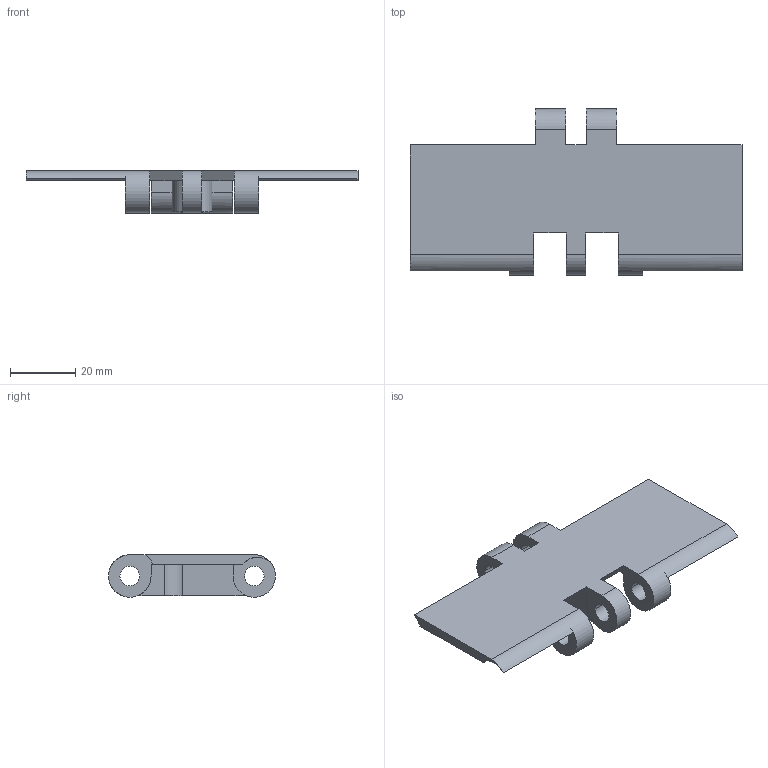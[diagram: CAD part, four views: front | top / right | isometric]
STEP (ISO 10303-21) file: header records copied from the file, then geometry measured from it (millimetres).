
FILE_DESCRIPTION(('CATIA V5 STEP Exchange'),'2;1');
FILE_NAME('C:\Users\ALI OZGUN\Desktop\alhan\TESLIMEDILEN\820K00101.stp','2017-08-04T07:42:35+00:00',('none'),('none'),'CATIA Version 5 Release 21 GA (IN-10)','CATIA V5 STEP AP203','none');
FILE_SCHEMA(('CONFIG_CONTROL_DESIGN'));
Length unit declared in the file: millimetre
Products named in the file (1): 820K00101
Bounding box: 101.6 x 51.09 x 13 mm (x, y, z)
Volume: 14641.7 mm3; surface area: 11382.6 mm2
Topology: 1 solids, 1 shells, 60 faces, 178 edges, 120 vertices
Faces by surface type: plane 35, cylinder 25
Entity records: 1961 total; most frequent: CARTESIAN_POINT 386, ORIENTED_EDGE 356, DIRECTION 247, EDGE_CURVE 178, VERTEX_POINT 120, VECTOR 116, LINE 116, AXIS2_PLACEMENT_3D 94
